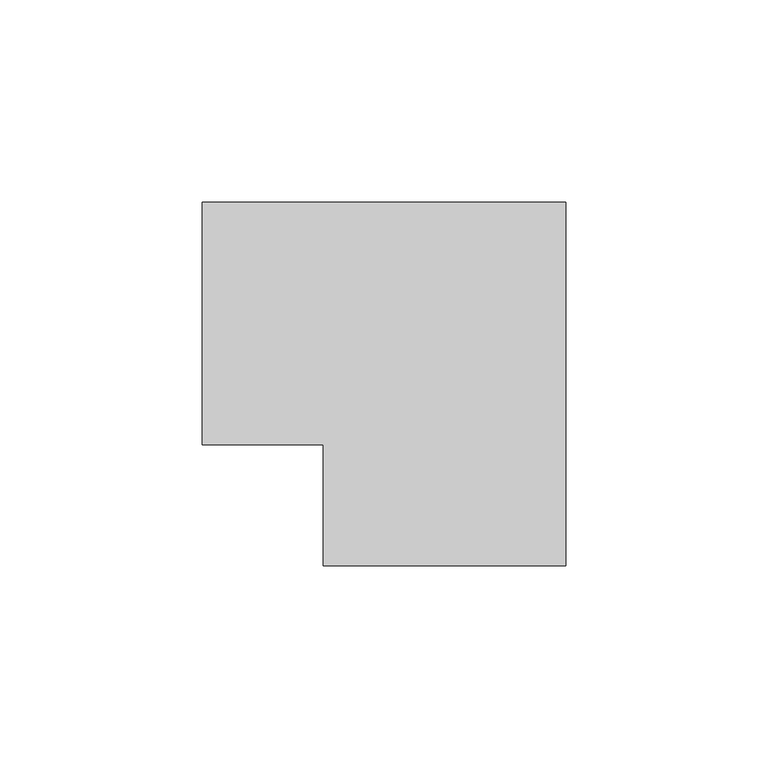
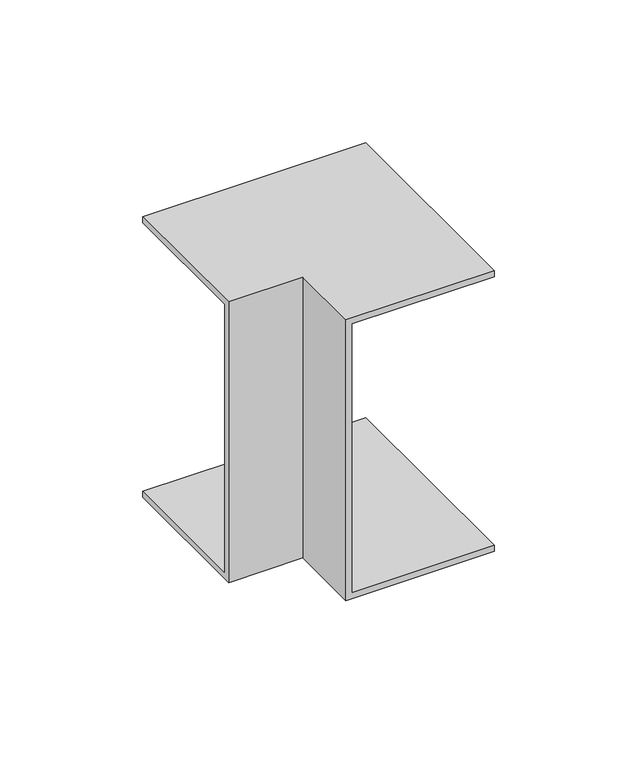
"""IFC4 building model written with IfcOpenShell, lengths in millimetres: cable carrier fitting geometry, КНС_УголВнешний_ILC_DKC : Угол внешний_DKC."""

import ifcopenshell
import ifcopenshell.guid

model = None  # the IFC model being written
_history = None  # IfcOwnerHistory: only IFC2X3 demands one
_inside = {}  # id of a spatial element -> (the spatial element, [elements in it])
_under = {}  # id of a project, library or spatial element -> (it, [spatial elements below it])
_declared = {}  # id of a project -> (the project, [libraries it declares])
_typed = {}  # id of a type object -> (the type object, [elements of that type])
_made_of = {}  # id of a material, layer set ... -> (it, [elements and type objects made of it])


def new_model(schema):
    """Start an empty IFC model of exactly this schema.

    Asked for "IFC4X3", IfcOpenShell would pick the latest addendum, in which some entities
    have other attributes; the version numbers below select the first issue.
    IFC2X3 requires an IfcOwnerHistory on every rooted entity: one is made here for all.
    """
    global model, _history
    if schema == "IFC4X3":
        model = ifcopenshell.file(schema_version=(4, 3, 0, 0))
    else:
        model = ifcopenshell.file(schema=schema)
    _inside.clear()
    _under.clear()
    _declared.clear()
    _typed.clear()
    _made_of.clear()
    _history = None
    if model.schema == "IFC2X3":
        org = make("IfcOrganization", Name="unknown")
        user = make(
            "IfcPersonAndOrganization",
            ThePerson=make("IfcPerson", FamilyName="unknown"),
            TheOrganization=org,
        )
        app = make(
            "IfcApplication",
            ApplicationDeveloper=org,
            Version="unknown",
            ApplicationFullName="unknown",
            ApplicationIdentifier="unknown",
        )
        _history = make(
            "IfcOwnerHistory",
            OwningUser=user,
            OwningApplication=app,
            ChangeAction="ADDED",
            CreationDate=0,
        )
    return model


def make(cls, **values):
    """One entity of the class cls with the attributes given. An attribute that is None is left unset."""
    return model.create_entity(
        cls, **{name: value for name, value in values.items() if value is not None}
    )


def rooted(cls, **values):
    """An entity with a GlobalId (a new one), such as an element, a storey or a relation."""
    return make(cls, GlobalId=ifcopenshell.guid.new(), OwnerHistory=_history, **values)


def si_unit(unit_type, name, prefix=None):
    """IfcSIUnit, for example si_unit("LENGTHUNIT", "METRE", prefix="MILLI")."""
    return make("IfcSIUnit", UnitType=unit_type, Prefix=prefix, Name=name)


def assignment(units):
    """IfcUnitAssignment: the units of a project."""
    return None if units is None else make("IfcUnitAssignment", Units=units)


def point(xyz):
    """IfcCartesianPoint."""
    return None if xyz is None else make("IfcCartesianPoint", Coordinates=xyz)


def direction(xyz):
    """IfcDirection."""
    return None if xyz is None else make("IfcDirection", DirectionRatios=xyz)


def frame(location, z_axis=None, x_axis=None):
    """IfcAxis2Placement3D, a coordinate frame: its origin and axes. An axis left out is left unset."""
    return make(
        "IfcAxis2Placement3D",
        Location=point(location),
        Axis=direction(z_axis),
        RefDirection=direction(x_axis),
    )


def origin():
    """The frame at (0, 0, 0) with its axes left unset."""
    return frame((0.0, 0.0, 0.0))


def place(relative_to, where):
    """IfcLocalPlacement: puts the frame where relative to a parent placement (None: the world)."""
    return make(
        "IfcLocalPlacement", PlacementRelTo=relative_to, RelativePlacement=where
    )


def context(
    kind, dimensions, precision=None, world=None, true_north=None, identifier=None
):
    """IfcGeometricRepresentationContext, for example the 3D "Model" context."""
    return make(
        "IfcGeometricRepresentationContext",
        ContextIdentifier=identifier,
        ContextType=kind,
        CoordinateSpaceDimension=dimensions,
        Precision=precision,
        WorldCoordinateSystem=world,
        TrueNorth=true_north,
    )


def project(units=None, contexts=None):
    """IfcProject with its units and contexts."""
    return rooted(
        "IfcProject",
        Name="project",
        RepresentationContexts=contexts,
        UnitsInContext=assignment(units),
    )


def spatial(cls, under=None, at=None, **own):
    """A site, building, storey or space (cls), placed at a placement, below another one or the project."""
    s = rooted(cls, ObjectPlacement=at, **own)
    if under is not None:
        _under.setdefault(under.id(), (under, []))[1].append(s)
    return s


def faces_of(points, faces, orient=None, outer=None):
    """IfcFace entities. A face is a list of loops; a loop is a list of indices into points, from 0.

    orient and outer hold one flag for each loop. By default every Orientation is true, the
    first loop of a face is its IfcFaceOuterBound and the others are IfcFaceBound.
    """
    made = []
    for i, loops in enumerate(faces):
        bounds = []
        for j, loop in enumerate(loops):
            is_outer = j == 0 if outer is None else outer[i][j]
            bounds.append(
                make(
                    "IfcFaceOuterBound" if is_outer else "IfcFaceBound",
                    Bound=make("IfcPolyLoop", Polygon=[points[k] for k in loop]),
                    Orientation=True if orient is None else orient[i][j],
                )
            )
        made.append(make("IfcFace", Bounds=bounds))
    return made


def faceted_brep(points, faces, orient=None, outer=None, voids=None):
    """IfcFacetedBrep: a solid bounded by flat faces; with voids (closed shells), ...WithVoids."""
    shared = [point(p) for p in points]
    hull = make("IfcClosedShell", CfsFaces=faces_of(shared, faces, orient, outer))
    if voids is None:
        return make("IfcFacetedBrep", Outer=hull)
    return make(
        "IfcFacetedBrepWithVoids",
        Outer=hull,
        Voids=[
            make(cls, CfsFaces=faces_of(shared, fs, o, b)) for cls, fs, o, b in voids
        ],
    )


def shape(context_of_items, identifier, shape_type, items):
    """IfcShapeRepresentation: the items that make up one representation, for example the "Body"."""
    return make(
        "IfcShapeRepresentation",
        ContextOfItems=context_of_items,
        RepresentationIdentifier=identifier,
        RepresentationType=shape_type,
        Items=items,
    )


def source(mapping_origin, context_of_items, identifier, shape_type, items):
    """IfcRepresentationMap: a shape defined once, which mapped items show again and again."""
    return make(
        "IfcRepresentationMap",
        MappingOrigin=mapping_origin,
        MappedRepresentation=shape(context_of_items, identifier, shape_type, items),
    )


def transform(
    local_origin,
    x_axis=None,
    y_axis=None,
    z_axis=None,
    scale=None,
    scale2=None,
    scale3=None,
    uniform=True,
):
    """IfcCartesianTransformationOperator3D, or its non-uniform kind. x_axis, y_axis, z_axis: its Axis1, 2, 3."""
    if uniform:
        return make(
            "IfcCartesianTransformationOperator3D",
            Axis1=direction(x_axis),
            Axis2=direction(y_axis),
            LocalOrigin=point(local_origin),
            Scale=scale,
            Axis3=direction(z_axis),
        )
    return make(
        "IfcCartesianTransformationOperator3DnonUniform",
        Axis1=direction(x_axis),
        Axis2=direction(y_axis),
        LocalOrigin=point(local_origin),
        Scale=scale,
        Axis3=direction(z_axis),
        Scale2=scale2,
        Scale3=scale3,
    )


def mapped(mapping_source, mapping_target):
    """IfcMappedItem: shows the shape of a source again, moved by a transform."""
    return make(
        "IfcMappedItem", MappingSource=mapping_source, MappingTarget=mapping_target
    )


def made_of(thing, what):
    """Note that an element or type object is made of a material, layer set ...; save() writes the relation."""
    if what is not None:
        _made_of.setdefault(what.id(), (what, []))[1].append(thing)
    return thing


def element(
    cls,
    number,
    at=None,
    inside=None,
    cuts=None,
    type_object=None,
    material=None,
    context=None,
    identifier="Body",
    shape_type=None,
    held_by="IfcProductDefinitionShape",
    body=None,
    shapes=None,
    **own,
):
    """One element of the class cls, such as IfcWall. Its Tag is "e" and its number.

    at: its placement. inside: the storey or other place that contains it. cuts: it is an
    opening in that element (IfcRelVoidsElement). A single representation is given by context,
    identifier, shape_type and body (its items); several are given by shapes. held_by: the class
    of the entity that holds the representations. save() writes the other relations.
    """
    e = rooted(cls, Tag="e%d" % number, ObjectPlacement=at, **own)
    if body is not None:
        shapes = [shape(context, identifier, shape_type, body)]
    if shapes is not None:
        e.Representation = make(held_by, Representations=shapes)
    if inside is not None:
        _inside.setdefault(inside.id(), (inside, []))[1].append(e)
    if cuts is not None:
        rooted(
            "IfcRelVoidsElement", RelatingBuildingElement=cuts, RelatedOpeningElement=e
        )
    if type_object is not None:
        _typed.setdefault(type_object.id(), (type_object, []))[1].append(e)
    return made_of(e, material)


def aggregate(whole, parts):
    """IfcRelAggregates: a whole, such as a stair, and the parts it consists of."""
    return rooted("IfcRelAggregates", RelatingObject=whole, RelatedObjects=parts)


def save(model, path):
    """Write the relations noted so far, then the file.

    IfcRelAggregates (storeys below a building ...), IfcRelContainedInSpatialStructure (elements
    in a storey), IfcRelDefinesByType, IfcRelAssociatesMaterial and IfcRelDeclares: one each for
    every whole, place, type object, material and project.
    """
    for whole, parts in _under.values():
        aggregate(whole, parts)
    for where, things in _inside.values():
        rooted(
            "IfcRelContainedInSpatialStructure",
            RelatedElements=things,
            RelatingStructure=where,
        )
    for kind, things in _typed.values():
        rooted("IfcRelDefinesByType", RelatedObjects=things, RelatingType=kind)
    for what, things in _made_of.values():
        rooted("IfcRelAssociatesMaterial", RelatedObjects=things, RelatingMaterial=what)
    for by, libraries in _declared.values():
        rooted("IfcRelDeclares", RelatingContext=by, RelatedDefinitions=libraries)
    model.write(path)


def cable_carrier_fitting_fe72e667(model_context):
    return source(origin(), model_context, "Body", "Brep", [
        faceted_brep([(-60.0, -30.0, 60.0), (-60.0, 30.0, 60.0), (-60.0, 30.0, 57.46), (-60.0, -27.46, 57.46), (-60.0, -27.46, -57.46), (-60.0, 30.0, -57.46), (-60.0, 30.0, -60.0), (-60.0, -30.0, -60.0), (-30.0, -60.0, 60.0), (-30.0, -60.0, -60.0), (30.0, -60.0, -60.0), (30.0, -60.0, -57.46), (-27.46, -60.0, -57.46), (-27.46, -60.0, 57.46), (30.0, -60.0, 57.46), (30.0, -60.0, 60.0), (-30.0, -30.0, -60.0), (-30.0, -30.0, 60.0), (30.0, 30.0, -60.0), (30.0, 30.0, -57.46), (-27.46, -27.46, -57.46), (-27.46, -27.46, 57.46), (30.0, 30.0, 57.46), (30.0, 30.0, 60.0)], [[[0, 1, 2, 3, 4, 5, 6, 7]], [[8, 9, 10, 11, 12, 13, 14, 15]], [[7, 16, 17, 0]], [[6, 18, 10, 9, 16, 7]], [[5, 19, 18, 6]], [[4, 20, 12, 11, 19, 5]], [[3, 21, 20, 4]], [[2, 22, 14, 13, 21, 3]], [[1, 23, 22, 2]], [[0, 17, 8, 15, 23, 1]], [[16, 9, 8, 17]], [[19, 11, 10, 18]], [[21, 13, 12, 20]], [[23, 15, 14, 22]]]),
    ])


if __name__ == "__main__":
    model = new_model("IFC4")
    model_context = context("Model", 3, world=origin())
    ifc_project = project(units=[si_unit("LENGTHUNIT", "METRE", prefix="MILLI")], contexts=[model_context])
    site = spatial("IfcSite", under=ifc_project)
    building = spatial("IfcBuilding", under=site)
    placement = place(None, origin())
    cable_carrier_fitting_shape = cable_carrier_fitting_fe72e667(model_context)
    element("IfcCableCarrierFitting", 1, ObjectType="КНС_УголВнешний_ILC_DKC : Угол внешний_DKC", at=placement, inside=building, context=model_context, shape_type="MappedRepresentation", body=[
        mapped(cable_carrier_fitting_shape, transform((0.0, 0.0, 0.0), x_axis=(1.0, 0.0, 0.0), y_axis=(0.0, 1.0, 0.0), z_axis=(0.0, 0.0, 1.0))),
    ])
    save(model, "model.ifc")
